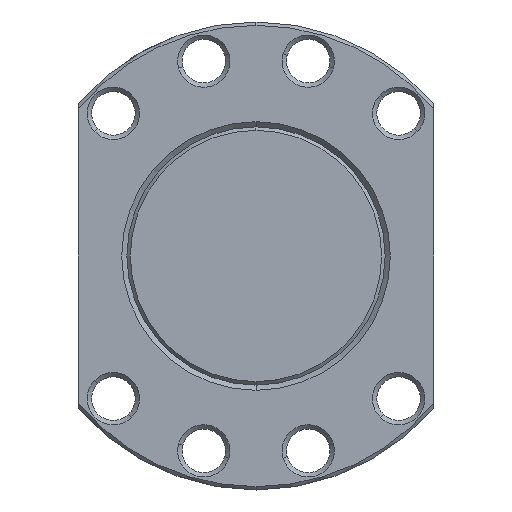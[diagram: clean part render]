
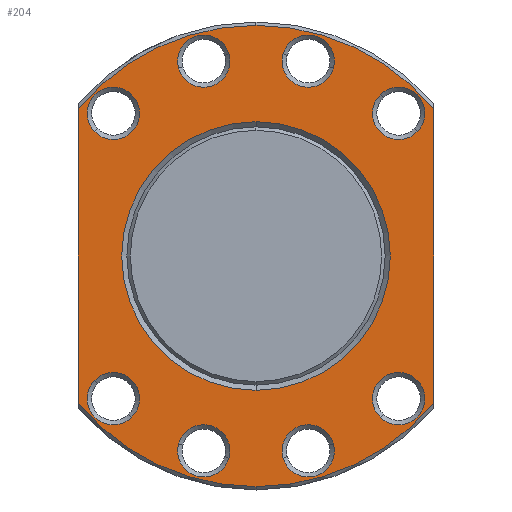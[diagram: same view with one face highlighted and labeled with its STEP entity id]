
A CAD part, left-side view. The second image highlights one B-rep face of the part: STEP entity #204.
In plain terms, the highlighted planar face has unit normal (-1, 0, 0).
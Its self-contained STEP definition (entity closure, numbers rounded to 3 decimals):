
#204=ADVANCED_FACE('',(#386,#387,#388,#389,#390,#391,#392,#393,#394,#395),#396,.T.);
#386=FACE_BOUND('',#587,.T.);
#387=FACE_OUTER_BOUND('',#588,.T.);
#388=FACE_BOUND('',#589,.T.);
#389=FACE_BOUND('',#590,.T.);
#390=FACE_BOUND('',#591,.T.);
#391=FACE_BOUND('',#592,.T.);
#392=FACE_BOUND('',#593,.T.);
#393=FACE_BOUND('',#594,.T.);
#394=FACE_BOUND('',#595,.T.);
#395=FACE_BOUND('',#596,.T.);
#396=PLANE('',#597);
#587=EDGE_LOOP('',(#1207,#1208));
#588=EDGE_LOOP('',(#1209,#1210,#1211,#1212,#1213,#1214));
#589=EDGE_LOOP('',(#1215,#1216));
#590=EDGE_LOOP('',(#1217,#1218));
#591=EDGE_LOOP('',(#1219,#1220));
#592=EDGE_LOOP('',(#1221,#1222));
#593=EDGE_LOOP('',(#1223,#1224));
#594=EDGE_LOOP('',(#1225,#1226));
#595=EDGE_LOOP('',(#1227,#1228));
#596=EDGE_LOOP('',(#1229,#1230));
#597=AXIS2_PLACEMENT_3D('',#1231,#1232,#1233);
#1207=ORIENTED_EDGE('',*,*,#1436,.T.);
#1208=ORIENTED_EDGE('',*,*,#1416,.T.);
#1209=ORIENTED_EDGE('',*,*,#1437,.T.);
#1210=ORIENTED_EDGE('',*,*,#1485,.F.);
#1211=ORIENTED_EDGE('',*,*,#1324,.F.);
#1212=ORIENTED_EDGE('',*,*,#1460,.T.);
#1213=ORIENTED_EDGE('',*,*,#1406,.F.);
#1214=ORIENTED_EDGE('',*,*,#1459,.F.);
#1215=ORIENTED_EDGE('',*,*,#1463,.T.);
#1216=ORIENTED_EDGE('',*,*,#1396,.T.);
#1217=ORIENTED_EDGE('',*,*,#1466,.T.);
#1218=ORIENTED_EDGE('',*,*,#1386,.T.);
#1219=ORIENTED_EDGE('',*,*,#1469,.T.);
#1220=ORIENTED_EDGE('',*,*,#1376,.T.);
#1221=ORIENTED_EDGE('',*,*,#1472,.T.);
#1222=ORIENTED_EDGE('',*,*,#1366,.T.);
#1223=ORIENTED_EDGE('',*,*,#1475,.T.);
#1224=ORIENTED_EDGE('',*,*,#1356,.T.);
#1225=ORIENTED_EDGE('',*,*,#1478,.T.);
#1226=ORIENTED_EDGE('',*,*,#1346,.T.);
#1227=ORIENTED_EDGE('',*,*,#1481,.T.);
#1228=ORIENTED_EDGE('',*,*,#1336,.T.);
#1229=ORIENTED_EDGE('',*,*,#1484,.T.);
#1230=ORIENTED_EDGE('',*,*,#1326,.T.);
#1231=CARTESIAN_POINT('',(25.0,0.0,35.73));
#1232=DIRECTION('',(-1.0,-0.0,0.));
#1233=DIRECTION('',(0.,0.0,-1.0));
#1324=EDGE_CURVE('',#1550,#1548,#1552,.T.);
#1326=EDGE_CURVE('',#1556,#1553,#1557,.T.);
#1336=EDGE_CURVE('',#1574,#1571,#1575,.T.);
#1346=EDGE_CURVE('',#1592,#1589,#1593,.T.);
#1356=EDGE_CURVE('',#1610,#1607,#1611,.T.);
#1366=EDGE_CURVE('',#1628,#1625,#1629,.T.);
#1376=EDGE_CURVE('',#1646,#1643,#1647,.T.);
#1386=EDGE_CURVE('',#1664,#1661,#1665,.T.);
#1396=EDGE_CURVE('',#1682,#1679,#1683,.T.);
#1406=EDGE_CURVE('',#1697,#1700,#1701,.T.);
#1416=EDGE_CURVE('',#1718,#1715,#1719,.T.);
#1436=EDGE_CURVE('',#1715,#1718,#1749,.T.);
#1437=EDGE_CURVE('',#1750,#1751,#1752,.T.);
#1459=EDGE_CURVE('',#1750,#1697,#1780,.T.);
#1460=EDGE_CURVE('',#1550,#1700,#1781,.T.);
#1463=EDGE_CURVE('',#1679,#1682,#1784,.T.);
#1466=EDGE_CURVE('',#1661,#1664,#1787,.T.);
#1469=EDGE_CURVE('',#1643,#1646,#1790,.T.);
#1472=EDGE_CURVE('',#1625,#1628,#1793,.T.);
#1475=EDGE_CURVE('',#1607,#1610,#1796,.T.);
#1478=EDGE_CURVE('',#1589,#1592,#1799,.T.);
#1481=EDGE_CURVE('',#1571,#1574,#1802,.T.);
#1484=EDGE_CURVE('',#1553,#1556,#1805,.T.);
#1485=EDGE_CURVE('',#1548,#1751,#1806,.T.);
#1548=VERTEX_POINT('',#1893);
#1550=VERTEX_POINT('',#1896);
#1552=CIRCLE('',#1907,71.46);
#1553=VERTEX_POINT('',#1908);
#1556=VERTEX_POINT('',#1912);
#1557=CIRCLE('',#1913,8.1);
#1571=VERTEX_POINT('',#1932);
#1574=VERTEX_POINT('',#1936);
#1575=CIRCLE('',#1937,8.1);
#1589=VERTEX_POINT('',#1956);
#1592=VERTEX_POINT('',#1960);
#1593=CIRCLE('',#1961,8.1);
#1607=VERTEX_POINT('',#1980);
#1610=VERTEX_POINT('',#1984);
#1611=CIRCLE('',#1985,8.1);
#1625=VERTEX_POINT('',#2004);
#1628=VERTEX_POINT('',#2008);
#1629=CIRCLE('',#2009,8.1);
#1643=VERTEX_POINT('',#2028);
#1646=VERTEX_POINT('',#2032);
#1647=CIRCLE('',#2033,8.1);
#1661=VERTEX_POINT('',#2052);
#1664=VERTEX_POINT('',#2056);
#1665=CIRCLE('',#2057,8.1);
#1679=VERTEX_POINT('',#2076);
#1682=VERTEX_POINT('',#2080);
#1683=CIRCLE('',#2081,8.1);
#1697=VERTEX_POINT('',#2100);
#1700=VERTEX_POINT('',#2104);
#1701=CIRCLE('',#2105,71.46);
#1715=VERTEX_POINT('',#2140);
#1718=VERTEX_POINT('',#2144);
#1719=CIRCLE('',#2145,41.6);
#1749=CIRCLE('',#2251,41.6);
#1750=VERTEX_POINT('',#2252);
#1751=VERTEX_POINT('',#2253);
#1752=LINE('',#2254,#2255);
#1780=CIRCLE('',#2323,71.46);
#1781=LINE('',#2324,#2325);
#1784=CIRCLE('',#2328,8.1);
#1787=CIRCLE('',#2331,8.1);
#1790=CIRCLE('',#2334,8.1);
#1793=CIRCLE('',#2337,8.1);
#1796=CIRCLE('',#2340,8.1);
#1799=CIRCLE('',#2343,8.1);
#1802=CIRCLE('',#2346,8.1);
#1805=CIRCLE('',#2349,8.1);
#1806=CIRCLE('',#2350,71.46);
#1893=CARTESIAN_POINT('',(25.0,0.,-71.46));
#1896=CARTESIAN_POINT('',(25.0,-55.0,-45.624));
#1907=AXIS2_PLACEMENT_3D('',#2421,#2422,#2423);
#1908=CARTESIAN_POINT('',(25.0,-38.467,49.922));
#1912=CARTESIAN_POINT('',(25.0,-49.922,38.467));
#1913=AXIS2_PLACEMENT_3D('',#2425,#2426,#2427);
#1932=CARTESIAN_POINT('',(25.0,-8.352,62.467));
#1936=CARTESIAN_POINT('',(25.0,-24.,58.274));
#1937=AXIS2_PLACEMENT_3D('',#2443,#2444,#2445);
#1956=CARTESIAN_POINT('',(25.0,24.,58.274));
#1960=CARTESIAN_POINT('',(25.0,8.352,62.467));
#1961=AXIS2_PLACEMENT_3D('',#2461,#2462,#2463);
#1980=CARTESIAN_POINT('',(25.0,49.922,38.467));
#1984=CARTESIAN_POINT('',(25.0,38.467,49.922));
#1985=AXIS2_PLACEMENT_3D('',#2479,#2480,#2481);
#2004=CARTESIAN_POINT('',(25.0,38.467,-49.922));
#2008=CARTESIAN_POINT('',(25.0,49.922,-38.467));
#2009=AXIS2_PLACEMENT_3D('',#2497,#2498,#2499);
#2028=CARTESIAN_POINT('',(25.0,8.352,-62.467));
#2032=CARTESIAN_POINT('',(25.0,24.,-58.274));
#2033=AXIS2_PLACEMENT_3D('',#2515,#2516,#2517);
#2052=CARTESIAN_POINT('',(25.0,-24.,-58.274));
#2056=CARTESIAN_POINT('',(25.0,-8.352,-62.467));
#2057=AXIS2_PLACEMENT_3D('',#2533,#2534,#2535);
#2076=CARTESIAN_POINT('',(25.0,-49.922,-38.467));
#2080=CARTESIAN_POINT('',(25.0,-38.467,-49.922));
#2081=AXIS2_PLACEMENT_3D('',#2551,#2552,#2553);
#2100=CARTESIAN_POINT('',(25.0,0.,71.46));
#2104=CARTESIAN_POINT('',(25.0,-55.0,45.624));
#2105=AXIS2_PLACEMENT_3D('',#2569,#2570,#2571);
#2140=CARTESIAN_POINT('',(25.0,0.0,41.6));
#2144=CARTESIAN_POINT('',(25.0,0.,-41.6));
#2145=AXIS2_PLACEMENT_3D('',#2585,#2586,#2587);
#2251=AXIS2_PLACEMENT_3D('',#2621,#2622,#2623);
#2252=CARTESIAN_POINT('',(25.0,55.0,45.624));
#2253=CARTESIAN_POINT('',(25.0,55.0,-45.624));
#2254=CARTESIAN_POINT('',(25.0,55.0,17.865));
#2255=VECTOR('',#2624,1.0);
#2323=AXIS2_PLACEMENT_3D('',#2668,#2669,#2670);
#2324=CARTESIAN_POINT('',(25.0,-55.0,17.865));
#2325=VECTOR('',#2671,1.0);
#2328=AXIS2_PLACEMENT_3D('',#2678,#2679,#2680);
#2331=AXIS2_PLACEMENT_3D('',#2687,#2688,#2689);
#2334=AXIS2_PLACEMENT_3D('',#2696,#2697,#2698);
#2337=AXIS2_PLACEMENT_3D('',#2705,#2706,#2707);
#2340=AXIS2_PLACEMENT_3D('',#2714,#2715,#2716);
#2343=AXIS2_PLACEMENT_3D('',#2723,#2724,#2725);
#2346=AXIS2_PLACEMENT_3D('',#2732,#2733,#2734);
#2349=AXIS2_PLACEMENT_3D('',#2741,#2742,#2743);
#2350=AXIS2_PLACEMENT_3D('',#2744,#2745,#2746);
#2421=CARTESIAN_POINT('',(25.0,0.0,0.0));
#2422=DIRECTION('',(1.0,0.0,-0.0));
#2423=DIRECTION('',(0.0,0.0,1.0));
#2425=CARTESIAN_POINT('',(25.0,-44.194,44.194));
#2426=DIRECTION('',(1.0,0.0,0.));
#2427=DIRECTION('',(0.,0.707,0.707));
#2443=CARTESIAN_POINT('',(25.0,-16.176,60.37));
#2444=DIRECTION('',(1.0,0.0,0.));
#2445=DIRECTION('',(0.,0.966,0.259));
#2461=CARTESIAN_POINT('',(25.0,16.176,60.37));
#2462=DIRECTION('',(1.0,0.0,0.));
#2463=DIRECTION('',(0.,0.966,-0.259));
#2479=CARTESIAN_POINT('',(25.0,44.194,44.194));
#2480=DIRECTION('',(1.0,0.0,0.));
#2481=DIRECTION('',(0.,0.707,-0.707));
#2497=CARTESIAN_POINT('',(25.0,44.194,-44.194));
#2498=DIRECTION('',(1.0,0.0,0.));
#2499=DIRECTION('',(0.,-0.707,-0.707));
#2515=CARTESIAN_POINT('',(25.0,16.176,-60.37));
#2516=DIRECTION('',(1.0,0.0,0.));
#2517=DIRECTION('',(0.,-0.966,-0.259));
#2533=CARTESIAN_POINT('',(25.0,-16.176,-60.37));
#2534=DIRECTION('',(1.0,0.0,0.));
#2535=DIRECTION('',(0.,-0.966,0.259));
#2551=CARTESIAN_POINT('',(25.0,-44.194,-44.194));
#2552=DIRECTION('',(1.0,0.0,0.));
#2553=DIRECTION('',(0.,-0.707,0.707));
#2569=CARTESIAN_POINT('',(25.0,0.0,0.0));
#2570=DIRECTION('',(1.0,0.0,-0.0));
#2571=DIRECTION('',(0.0,0.0,1.0));
#2585=CARTESIAN_POINT('',(25.0,0.0,0.0));
#2586=DIRECTION('',(1.0,0.0,0.));
#2587=DIRECTION('',(0.,0.0,1.0));
#2621=CARTESIAN_POINT('',(25.0,0.0,0.0));
#2622=DIRECTION('',(1.0,0.0,0.));
#2623=DIRECTION('',(0.,0.0,1.0));
#2624=DIRECTION('',(0.,0.0,-1.0));
#2668=CARTESIAN_POINT('',(25.0,0.0,0.0));
#2669=DIRECTION('',(1.0,0.0,-0.0));
#2670=DIRECTION('',(0.0,0.0,1.0));
#2671=DIRECTION('',(0.,0.0,1.0));
#2678=CARTESIAN_POINT('',(25.0,-44.194,-44.194));
#2679=DIRECTION('',(1.0,0.0,0.));
#2680=DIRECTION('',(0.,-0.707,0.707));
#2687=CARTESIAN_POINT('',(25.0,-16.176,-60.37));
#2688=DIRECTION('',(1.0,0.0,0.));
#2689=DIRECTION('',(0.,-0.966,0.259));
#2696=CARTESIAN_POINT('',(25.0,16.176,-60.37));
#2697=DIRECTION('',(1.0,0.0,0.));
#2698=DIRECTION('',(0.,-0.966,-0.259));
#2705=CARTESIAN_POINT('',(25.0,44.194,-44.194));
#2706=DIRECTION('',(1.0,0.0,0.));
#2707=DIRECTION('',(0.,-0.707,-0.707));
#2714=CARTESIAN_POINT('',(25.0,44.194,44.194));
#2715=DIRECTION('',(1.0,0.0,0.));
#2716=DIRECTION('',(0.,0.707,-0.707));
#2723=CARTESIAN_POINT('',(25.0,16.176,60.37));
#2724=DIRECTION('',(1.0,0.0,0.));
#2725=DIRECTION('',(0.,0.966,-0.259));
#2732=CARTESIAN_POINT('',(25.0,-16.176,60.37));
#2733=DIRECTION('',(1.0,0.0,0.));
#2734=DIRECTION('',(0.,0.966,0.259));
#2741=CARTESIAN_POINT('',(25.0,-44.194,44.194));
#2742=DIRECTION('',(1.0,0.0,0.));
#2743=DIRECTION('',(0.,0.707,0.707));
#2744=CARTESIAN_POINT('',(25.0,0.0,0.0));
#2745=DIRECTION('',(1.0,0.0,-0.0));
#2746=DIRECTION('',(0.0,0.0,1.0));
